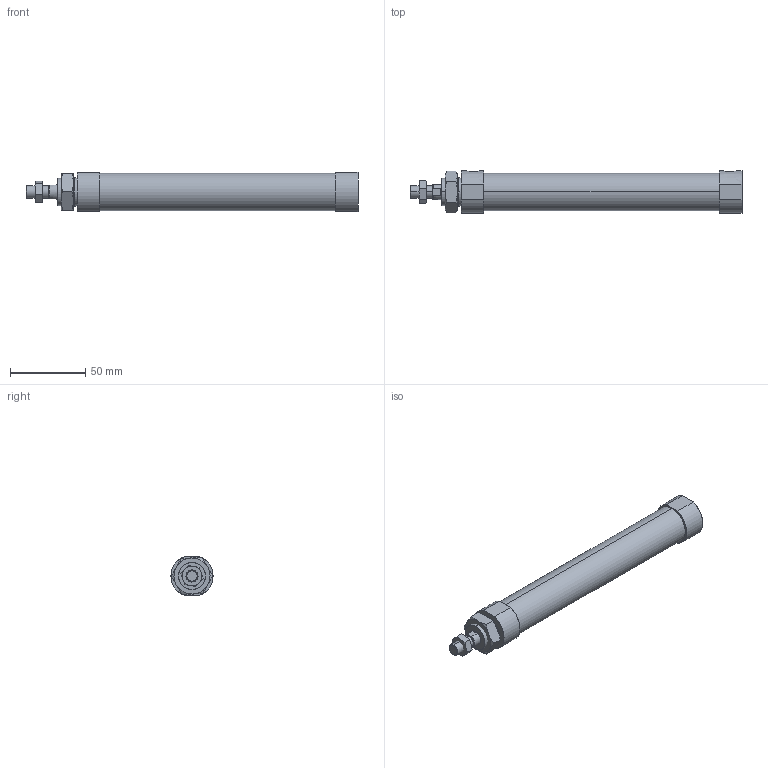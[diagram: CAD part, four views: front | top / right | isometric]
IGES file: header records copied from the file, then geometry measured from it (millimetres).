
Start section: SolidWorks IGES file using analytic representation for surfaces
Global section: file name: C:\Users\Toshiba\Desktop\JGND2-20-125-N.IGS; native system: SolidWorks 2014; preprocessor: SolidWorks 2014; author: Toshiba; date: 160804.103218; units: millimetre
Bounding box: 221 x 28 x 26 mm (x, y, z)
Surface area: 20536.4 mm2 (no closed solid volume)
Topology: 0 solids, 0 shells, 84 faces, 1468 edges, 1468 vertices
Faces by surface type: bspline 58, revolution 26
